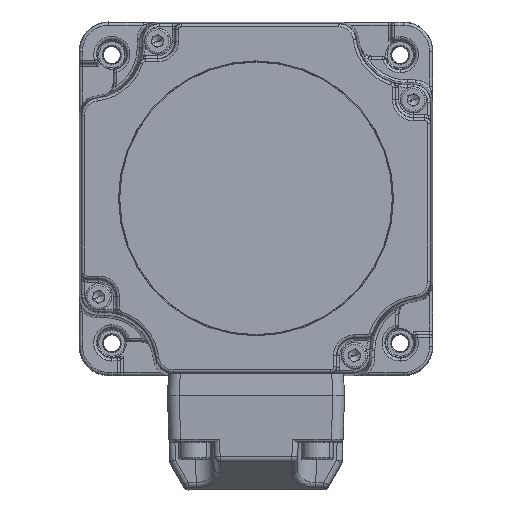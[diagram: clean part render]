
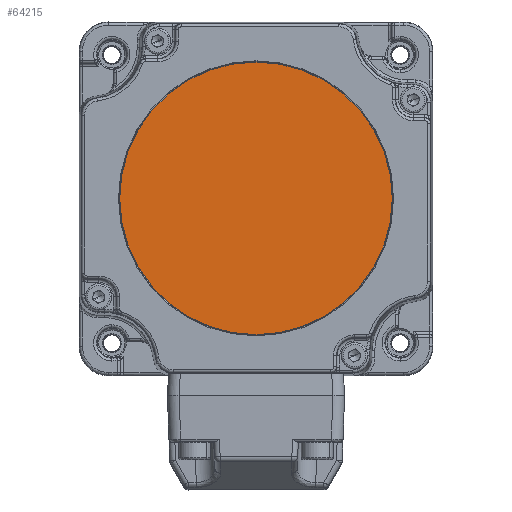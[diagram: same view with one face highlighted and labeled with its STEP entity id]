
A CAD part, top view. The second image highlights one B-rep face of the part: STEP entity #64215.
In plain terms, the highlighted planar face has unit normal (0, 0, 1).
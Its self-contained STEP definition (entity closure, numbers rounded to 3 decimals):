
#9331 = EDGE_CURVE ( 'NONE', #99548, #57317, #32406, .T. ) ;
#12915 = EDGE_CURVE ( 'NONE', #57317, #99548, #18823, .T. ) ;
#13586 = DIRECTION ( 'NONE',  ( 0., 0., 1. ) ) ;
#18823 = CIRCLE ( 'NONE', #82725, 23.4 ) ;
#27558 = DIRECTION ( 'NONE',  ( 0., 0., 1. ) ) ;
#32406 = CIRCLE ( 'NONE', #60040, 23.4 ) ;
#32787 = FACE_OUTER_BOUND ( 'NONE', #60426, .T. ) ;
#39677 = ORIENTED_EDGE ( 'NONE', *, *, #9331, .T. ) ;
#41444 = DIRECTION ( 'NONE',  ( 0., 0., -1. ) ) ;
#49531 = PLANE ( 'NONE',  #79063 ) ;
#57317 = VERTEX_POINT ( 'NONE', #75452 ) ;
#60040 = AXIS2_PLACEMENT_3D ( 'NONE', #62771, #13586, #94742 ) ;
#60426 = EDGE_LOOP ( 'NONE', ( #39677, #105536 ) ) ;
#61573 = CARTESIAN_POINT ( 'NONE',  ( -121.852, 149.681, 10.6 ) ) ;
#62771 = CARTESIAN_POINT ( 'NONE',  ( -121.852, 149.681, 10.6 ) ) ;
#64215 = ADVANCED_FACE ( 'NONE', ( #32787 ), #49531, .F. ) ;
#69150 = DIRECTION ( 'NONE',  ( -1., 0., 0. ) ) ;
#75452 = CARTESIAN_POINT ( 'NONE',  ( -98.452, 149.681, 10.6 ) ) ;
#78806 = CARTESIAN_POINT ( 'NONE',  ( -145.252, 149.681, 10.6 ) ) ;
#79063 = AXIS2_PLACEMENT_3D ( 'NONE', #82524, #41444, #87846 ) ;
#82524 = CARTESIAN_POINT ( 'NONE',  ( -121.852, 149.681, 10.6 ) ) ;
#82725 = AXIS2_PLACEMENT_3D ( 'NONE', #61573, #27558, #69150 ) ;
#87846 = DIRECTION ( 'NONE',  ( 0., -1., 0. ) ) ;
#94742 = DIRECTION ( 'NONE',  ( -1., 0., 0. ) ) ;
#99548 = VERTEX_POINT ( 'NONE', #78806 ) ;
#105536 = ORIENTED_EDGE ( 'NONE', *, *, #12915, .T. ) ;
